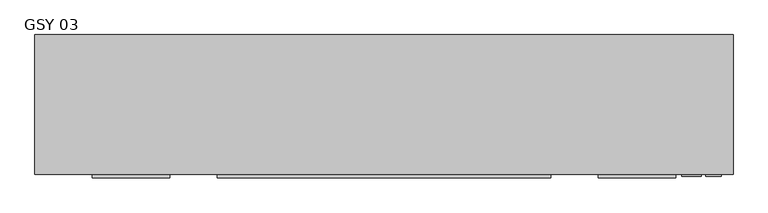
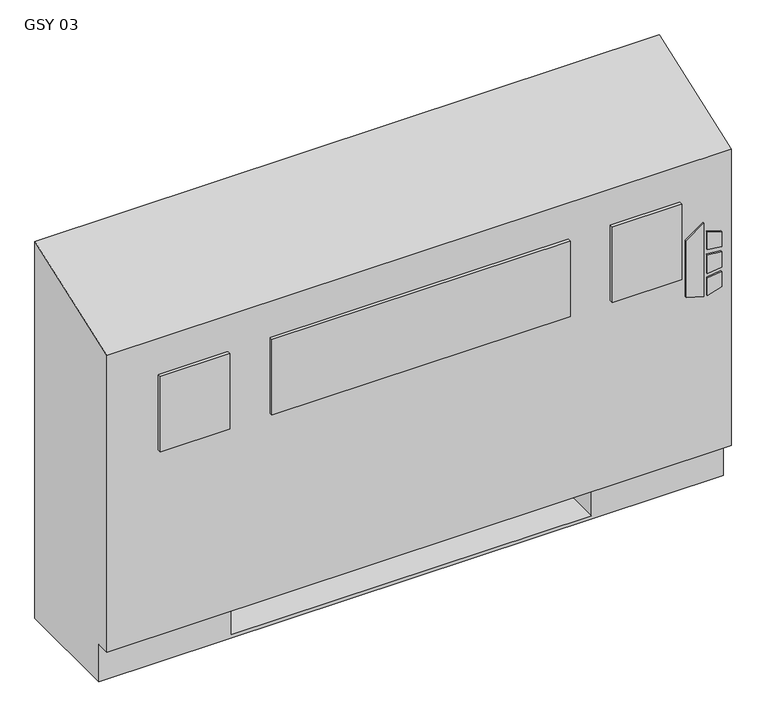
"""IFC4 building model written with IfcOpenShell, lengths in millimetres: proxy geometry, Vertical_Fan_Coil_Unit_-_GSY_-_IEC_-_2-Pipe_FS-FR_RH_2022 : GSY 03."""

from ifc_helpers import new_model, si_unit, point, frame, frame_2d, origin, place, context, project, spatial, polyline, circle_curve, trimmed, segment, composite_curve, outline, extrude, source, transform, mapped, element, save
from ifc_brep_helpers import plane_surface, revolved_surface, advanced_brep


def gsy_03_e8b588e9(model_context):
    return source(origin(), model_context, "Body", "SolidModel", [
        extrude(outline(polyline([(391.6086829, 639.8368862), (381.6606126, 672.0102728), (523.831537, 672.0102728), (500.8095309, 639.8368862), (391.6086829, 639.8368862)])), frame((0.0, 12.7, 0.0), z_axis=(0.0, 1.0, 0.0), x_axis=(0.0, 0.0, 1.0)), (0.0, 0.0, 1.0), 3.175),
        extrude(outline(polyline([(470.6079683, 678.7686058), (467.4055757, 704.85), (496.6344168, 704.85), (504.6988318, 678.7686058), (470.6079683, 678.7686058)])), frame((0.0, 12.7, 0.0), z_axis=(0.0, 1.0, 0.0), x_axis=(0.0, 0.0, 1.0)), (0.0, 0.0, 1.0), 3.175),
        extrude(outline(polyline([(418.7444414, 704.85), (415.0789404, 678.7686058), (381.6606126, 678.7686058), (390.2948498, 704.85), (418.7444414, 704.85)])), frame((0.0, 12.7, 0.0), z_axis=(0.0, 1.0, 0.0), x_axis=(0.0, 0.0, 1.0)), (0.0, 0.0, 1.0), 3.175),
        extrude(outline(polyline([(458.0596028, 704.85), (460.3414292, 678.7686058), (424.4038806, 678.7686058), (427.1451456, 704.85), (458.0596028, 704.85)])), frame((0.0, 12.7, 0.0), z_axis=(0.0, 1.0, 0.0), x_axis=(0.0, 0.0, 1.0)), (0.0, 0.0, 1.0), 3.175),
        extrude(outline(polyline([(-197.993, 9.525), (-324.993, 9.525), (-324.993, 15.875), (-197.993, 15.875), (-197.993, 9.525)])), frame((0.0, 0.0, 431.8), z_axis=(0.0, 0.0, 1.0), x_axis=(1.0, 0.0, 0.0)), (0.0, 0.0, 1.0), 146.05),
        extrude(outline(polyline([(425.45, 9.525), (-120.65, 9.525), (-120.65, 15.875), (425.45, 15.875), (425.45, 9.525)])), frame((0.0, 0.0, 431.8), z_axis=(0.0, 0.0, 1.0), x_axis=(1.0, 0.0, 0.0)), (0.0, 0.0, 1.0), 146.05),
        extrude(outline(polyline([(629.793, 9.525), (502.793, 9.525), (502.793, 15.875), (629.793, 15.875), (629.793, 9.525)])), frame((0.0, 0.0, 431.8), z_axis=(0.0, 0.0, 1.0), x_axis=(1.0, 0.0, 0.0)), (0.0, 0.0, 1.0), 146.05),
        extrude(outline(polyline([(-298.45, 81.534), (-298.45, 223.266), (-127.0, 223.266), (-127.0, 81.534), (-298.45, 81.534)])), frame((0.0, 0.0, 327.025), z_axis=(0.0, 0.0, 1.0), x_axis=(1.0, 0.0, 0.0)), (0.0, 0.0, 1.0), 260.35),
        extrude(outline(composite_curve([segment(trimmed(circle_curve(frame_2d((80.645, 397.002)), 7.9375), [point((80.645, 404.9395))], [point((80.645, 389.0645))], False, "CARTESIAN"), True, "CONTINUOUS"), segment(trimmed(circle_curve(frame_2d((80.645, 397.002)), 7.9375), [point((80.645, 389.0645))], [point((80.645, 404.9395))], False, "CARTESIAN"), True, "CONTINUOUS")], self_intersect=False)), frame((482.6, 0.0, 0.0), z_axis=(1.0, 0.0, 0.0), x_axis=(0.0, 1.0, 0.0)), (0.0, 0.0, 1.0), 50.8),
        extrude(outline(composite_curve([segment(trimmed(circle_curve(frame_2d((156.8958, 535.8892)), 7.9375), [point((156.8958, 543.8267))], [point((156.8958, 527.9517))], False, "CARTESIAN"), True, "CONTINUOUS"), segment(trimmed(circle_curve(frame_2d((156.8958, 535.8892)), 7.9375), [point((156.8958, 527.9517))], [point((156.8958, 543.8267))], False, "CARTESIAN"), True, "CONTINUOUS")], self_intersect=False)), frame((482.6, 0.0, 0.0), z_axis=(1.0, 0.0, 0.0), x_axis=(0.0, 1.0, 0.0)), (0.0, 0.0, 1.0), 50.8),
        advanced_brep(
        [(-419.1, 244.475, 0.0), (723.9, 244.475, 0.0), (723.9, 41.275, 0.0), (-419.1, 41.275, 0.0), (-419.1, 244.475, 730.25), (723.9, 244.475, 730.25), (482.6, 244.475, 73.025), (711.2, 244.475, 73.025), (711.2, 244.475, 654.05), (482.6, 244.475, 654.05), (482.6, 244.475, 414.8650565), (511.175, 244.475, 414.8650565), (511.175, 244.475, 385.2349435), (482.6, 244.475, 385.2349435), (482.6, 244.475, 287.3375), (511.175, 244.475, 287.3375), (511.175, 244.475, 258.7625), (482.6, 244.475, 258.7625), (482.6, 244.475, 141.2875), (511.175, 244.475, 141.2875), (511.175, 244.475, 112.7125), (482.6, 244.475, 112.7125), (-177.8, 244.475, 654.05), (-406.4, 244.475, 654.05), (-406.4, 244.475, 73.025), (-177.8, 244.475, 73.025), (-177.8, 244.475, 112.7125), (-206.375, 244.475, 112.7125), (-206.375, 244.475, 141.2875), (-177.8, 244.475, 141.2875), (-177.8, 244.475, 258.7625), (-206.375, 244.475, 258.7625), (-206.375, 244.475, 287.3375), (-177.8, 244.475, 287.3375), (-177.8, 244.475, 385.2349435), (-206.375, 244.475, 385.2349435), (-206.375, 244.475, 414.8650565), (-177.8, 244.475, 414.8650565), (500.8626, 244.475, 127.0), (489.7374, 244.475, 127.0), (500.8626, 244.475, 400.05), (489.7374, 244.475, 400.05), (500.8626, 244.475, 273.05), (489.7374, 244.475, 273.05), (-184.9374, 244.475, 127.0), (-196.0626, 244.475, 127.0), (-184.9374, 244.475, 273.05), (-196.0626, 244.475, 273.05), (-184.9374, 244.475, 400.05), (-196.0626, 244.475, 400.05), (-419.1, 41.275, 73.025), (-419.1, 15.875, 73.025), (-419.1, 15.875, 647.7), (723.9, 15.875, 73.025), (723.9, 15.875, 647.7), (723.9, 41.275, 73.025), (-177.8, 41.275, 73.025), (-177.8, 225.425, 73.025), (482.6, 225.425, 73.025), (482.6, 41.275, 73.025), (482.6, 41.275, 6.35), (-177.8, 41.275, 6.35), (482.6, 41.275, 654.05), (711.2, 41.275, 654.05), (711.2, 41.275, 73.025), (482.6, 41.275, 73.025), (-177.8, 41.275, 654.05), (-177.8, 41.275, 73.025), (-406.4, 41.275, 73.025), (-406.4, 41.275, 654.05), (482.6, 225.425, 73.025), (482.6, 238.125, 112.7125), (482.6, 238.125, 141.2875), (482.6, 238.125, 258.7625), (482.6, 238.125, 287.3375), (482.6, 238.125, 385.2349435), (482.6, 238.125, 414.8650565), (-177.8, 225.425, 73.025), (-177.8, 238.125, 414.8650565), (-177.8, 238.125, 385.2349435), (-177.8, 238.125, 287.3375), (-177.8, 238.125, 258.7625), (-177.8, 238.125, 141.2875), (-177.8, 238.125, 112.7125), (-177.8, 225.425, 6.35), (482.6, 225.425, 6.35), (511.175, 238.125, 112.7125), (511.175, 238.125, 141.2875), (489.7374, 238.125, 127.0), (500.8626, 238.125, 127.0), (511.175, 238.125, 258.7625), (511.175, 238.125, 287.3375), (489.7374, 238.125, 273.05), (500.8626, 238.125, 273.05), (511.175, 238.125, 385.2349435), (511.175, 238.125, 414.8650565), (489.7374, 238.125, 400.05), (500.8626, 238.125, 400.05), (-206.375, 238.125, 141.2875), (-206.375, 238.125, 112.7125), (-196.0626, 238.125, 127.0), (-184.9374, 238.125, 127.0), (-206.375, 238.125, 287.3375), (-206.375, 238.125, 258.7625), (-196.0626, 238.125, 273.05), (-184.9374, 238.125, 273.05), (-206.375, 238.125, 414.8650565), (-206.375, 238.125, 385.2349435), (-196.0626, 238.125, 400.05), (-184.9374, 238.125, 400.05)],
        [
            (0, 1),
            (1, 2),
            (2, 3),
            (3, 0),
            (0, 4),
            (4, 5),
            (5, 1),
            (6, 7),
            (7, 8),
            (8, 9),
            (9, 10),
            (10, 11),
            (11, 12),
            (12, 13),
            (13, 14),
            (14, 15),
            (15, 16),
            (16, 17),
            (17, 18),
            (18, 19),
            (19, 20),
            (20, 21),
            (21, 6),
            (22, 23),
            (23, 24),
            (24, 25),
            (25, 26),
            (26, 27),
            (27, 28),
            (28, 29),
            (29, 30),
            (30, 31),
            (31, 32),
            (32, 33),
            (33, 34),
            (34, 35),
            (35, 36),
            (36, 37),
            (37, 22),
            (38, 39, circle_curve(frame((495.3, 244.475, 127.0), z_axis=(0.0, -1.0, 0.0), x_axis=(-1.0, 0.0, 0.0)), 5.5626)),
            (39, 38, circle_curve(frame((495.3, 244.475, 127.0), z_axis=(0.0, -1.0, 0.0), x_axis=(-1.0, 0.0, 0.0)), 5.5626)),
            (40, 41, circle_curve(frame((495.3, 244.475, 400.05), z_axis=(0.0, -1.0, 0.0), x_axis=(-1.0, 0.0, 0.0)), 5.5626)),
            (41, 40, circle_curve(frame((495.3, 244.475, 400.05), z_axis=(0.0, -1.0, 0.0), x_axis=(-1.0, 0.0, 0.0)), 5.5626)),
            (42, 43, circle_curve(frame((495.3, 244.475, 273.05), z_axis=(0.0, -1.0, 0.0), x_axis=(-1.0, 0.0, 0.0)), 5.5626)),
            (43, 42, circle_curve(frame((495.3, 244.475, 273.05), z_axis=(0.0, -1.0, 0.0), x_axis=(-1.0, 0.0, 0.0)), 5.5626)),
            (44, 45, circle_curve(frame((-190.5, 244.475, 127.0), z_axis=(0.0, -1.0, 0.0), x_axis=(-1.0, 0.0, 0.0)), 5.5626)),
            (45, 44, circle_curve(frame((-190.5, 244.475, 127.0), z_axis=(0.0, -1.0, 0.0), x_axis=(-1.0, 0.0, 0.0)), 5.5626)),
            (46, 47, circle_curve(frame((-190.5, 244.475, 273.05), z_axis=(0.0, -1.0, 0.0), x_axis=(-1.0, 0.0, 0.0)), 5.5626)),
            (47, 46, circle_curve(frame((-190.5, 244.475, 273.05), z_axis=(0.0, -1.0, 0.0), x_axis=(-1.0, 0.0, 0.0)), 5.5626)),
            (48, 49, circle_curve(frame((-190.5, 244.475, 400.05), z_axis=(0.0, -1.0, 0.0), x_axis=(-1.0, 0.0, 0.0)), 5.5626)),
            (49, 48, circle_curve(frame((-190.5, 244.475, 400.05), z_axis=(0.0, -1.0, 0.0), x_axis=(-1.0, 0.0, 0.0)), 5.5626)),
            (3, 50),
            (50, 51),
            (51, 52),
            (52, 4),
            (51, 53),
            (53, 54),
            (54, 52),
            (5, 54),
            (53, 55),
            (55, 2),
            (50, 56),
            (56, 57),
            (57, 58),
            (58, 59),
            (59, 55),
            (59, 60),
            (60, 61),
            (61, 56),
            (62, 63),
            (63, 64),
            (64, 65),
            (65, 62),
            (66, 67),
            (67, 68),
            (68, 69),
            (69, 66),
            (65, 70),
            (70, 6),
            (21, 71),
            (71, 72),
            (72, 18),
            (17, 73),
            (73, 74),
            (74, 14),
            (13, 75),
            (75, 76),
            (76, 10),
            (9, 62),
            (64, 7),
            (63, 8),
            (69, 23),
            (22, 66),
            (68, 24),
            (67, 77),
            (77, 25),
            (37, 78),
            (78, 79),
            (79, 34),
            (33, 80),
            (80, 81),
            (81, 30),
            (29, 82),
            (82, 83),
            (83, 26),
            (57, 84),
            (84, 85),
            (85, 58),
            (85, 60),
            (84, 61),
            (71, 86),
            (86, 87),
            (87, 72),
            (88, 89, circle_curve(frame((495.3, 238.125, 127.0), z_axis=(0.0, 1.0, 0.0), x_axis=(-1.0, 0.0, 0.0)), 5.5626)),
            (89, 88, circle_curve(frame((495.3, 238.125, 127.0), z_axis=(0.0, 1.0, 0.0), x_axis=(-1.0, 0.0, 0.0)), 5.5626)),
            (73, 90),
            (90, 91),
            (91, 74),
            (92, 93, circle_curve(frame((495.3, 238.125, 273.05), z_axis=(0.0, 1.0, 0.0), x_axis=(-1.0, 0.0, 0.0)), 5.5626)),
            (93, 92, circle_curve(frame((495.3, 238.125, 273.05), z_axis=(0.0, 1.0, 0.0), x_axis=(-1.0, 0.0, 0.0)), 5.5626)),
            (75, 94),
            (94, 95),
            (95, 76),
            (96, 97, circle_curve(frame((495.3, 238.125, 400.05), z_axis=(0.0, 1.0, 0.0), x_axis=(-1.0, 0.0, 0.0)), 5.5626)),
            (97, 96, circle_curve(frame((495.3, 238.125, 400.05), z_axis=(0.0, 1.0, 0.0), x_axis=(-1.0, 0.0, 0.0)), 5.5626)),
            (98, 99),
            (99, 83),
            (82, 98),
            (100, 101, circle_curve(frame((-190.5, 238.125, 127.0), z_axis=(0.0, 1.0, 0.0), x_axis=(-1.0, 0.0, 0.0)), 5.5626)),
            (101, 100, circle_curve(frame((-190.5, 238.125, 127.0), z_axis=(0.0, 1.0, 0.0), x_axis=(-1.0, 0.0, 0.0)), 5.5626)),
            (102, 103),
            (103, 81),
            (80, 102),
            (104, 105, circle_curve(frame((-190.5, 238.125, 273.05), z_axis=(0.0, 1.0, 0.0), x_axis=(-1.0, 0.0, 0.0)), 5.5626)),
            (105, 104, circle_curve(frame((-190.5, 238.125, 273.05), z_axis=(0.0, 1.0, 0.0), x_axis=(-1.0, 0.0, 0.0)), 5.5626)),
            (106, 107),
            (107, 79),
            (78, 106),
            (108, 109, circle_curve(frame((-190.5, 238.125, 400.05), z_axis=(0.0, 1.0, 0.0), x_axis=(-1.0, 0.0, 0.0)), 5.5626)),
            (109, 108, circle_curve(frame((-190.5, 238.125, 400.05), z_axis=(0.0, 1.0, 0.0), x_axis=(-1.0, 0.0, 0.0)), 5.5626)),
            (87, 19),
            (86, 20),
            (91, 15),
            (90, 16),
            (95, 11),
            (94, 12),
            (28, 98),
            (99, 27),
            (32, 102),
            (103, 31),
            (36, 106),
            (107, 35),
            (88, 39),
            (38, 89),
            (96, 41),
            (40, 97),
            (92, 43),
            (42, 93),
            (100, 45),
            (44, 101),
            (104, 47),
            (46, 105),
            (108, 49),
            (48, 109),
        ],
        [
            plane_surface(frame((-419.1, 244.475, 0.0), z_axis=(0.0, 0.0, -1.0), x_axis=(1.0, 0.0, 0.0))),
            plane_surface(frame((723.9, 244.475, 730.25), z_axis=(0.0, 1.0, 0.0), x_axis=(0.0, 0.0, -1.0))),
            plane_surface(frame((-419.1, 244.475, 730.25), z_axis=(-1.0, 0.0, 0.0), x_axis=(0.0, 0.0, -1.0))),
            plane_surface(frame((-419.1, 15.875, 730.25), z_axis=(0.0, -1.0, 0.0), x_axis=(0.0, 0.0, -1.0))),
            plane_surface(frame((723.9, 15.875, 730.25), z_axis=(1.0, 0.0, 0.0), x_axis=(0.0, 0.0, -1.0))),
            plane_surface(frame((-419.1, 15.875, 73.025), z_axis=(0.0, 0.0, -1.0), x_axis=(1.0, 0.0, 0.0))),
            plane_surface(frame((-419.1, 41.275, 73.025), z_axis=(0.0, -1.0, 0.0), x_axis=(1.0, 0.0, 0.0))),
            plane_surface(frame((482.6, 41.275, 654.05), z_axis=(0.0, 1.0, 0.0), x_axis=(0.0, 0.0, -1.0))),
            plane_surface(frame((482.6, 41.275, 654.05), z_axis=(1.0, 0.0, 0.0), x_axis=(0.0, 1.0, 0.0))),
            plane_surface(frame((482.6, 41.275, 73.025), z_axis=(0.0, 0.0, 1.0), x_axis=(0.0, 1.0, 0.0))),
            plane_surface(frame((711.2, 41.275, 73.025), z_axis=(-1.0, 0.0, 0.0), x_axis=(0.0, 1.0, 0.0))),
            plane_surface(frame((711.2, 41.275, 654.05), z_axis=(0.0, 0.0, -1.0), x_axis=(0.0, 1.0, 0.0))),
            plane_surface(frame((-177.8, 41.275, 654.05), z_axis=(0.0, 0.0, -1.0), x_axis=(0.0, 1.0, 0.0))),
            plane_surface(frame((-406.4, 41.275, 654.05), z_axis=(1.0, 0.0, 0.0), x_axis=(0.0, 1.0, 0.0))),
            plane_surface(frame((-406.4, 41.275, 73.025), z_axis=(0.0, 0.0, 1.0), x_axis=(0.0, 1.0, 0.0))),
            plane_surface(frame((-177.8, 41.275, 73.025), z_axis=(-1.0, 0.0, 0.0), x_axis=(0.0, 1.0, 0.0))),
            plane_surface(frame((482.6, 225.425, 73.025), z_axis=(0.0, -1.0, 0.0), x_axis=(0.0, 0.0, -1.0))),
            plane_surface(frame((482.6, 225.425, 73.025), z_axis=(-1.0, 0.0, 0.0), x_axis=(0.0, -1.0, 0.0))),
            plane_surface(frame((482.6, 225.425, 6.35), z_axis=(0.0, 0.0, 1.0), x_axis=(0.0, -1.0, 0.0))),
            plane_surface(frame((-177.8, 225.425, 6.35), z_axis=(1.0, 0.0, 0.0), x_axis=(0.0, -1.0, 0.0))),
            plane_surface(frame((511.175, 238.125, 141.2875), z_axis=(0.0, -1.0, 0.0), x_axis=(-1.0, 0.0, 0.0))),
            plane_surface(frame((482.6, 244.475, 141.2875), z_axis=(0.0, 0.0, 1.0), x_axis=(0.0, -1.0, 0.0))),
            plane_surface(frame((511.175, 244.475, 141.2875), z_axis=(1.0, 0.0, 0.0), x_axis=(0.0, -1.0, 0.0))),
            plane_surface(frame((511.175, 244.475, 112.7125), z_axis=(0.0, 0.0, -1.0), x_axis=(0.0, -1.0, 0.0))),
            plane_surface(frame((482.6, 244.475, 287.3375), z_axis=(0.0, 0.0, 1.0), x_axis=(0.0, -1.0, 0.0))),
            plane_surface(frame((511.175, 244.475, 287.3375), z_axis=(1.0, 0.0, 0.0), x_axis=(0.0, -1.0, 0.0))),
            plane_surface(frame((511.175, 244.475, 258.7625), z_axis=(0.0, 0.0, -1.0), x_axis=(0.0, -1.0, 0.0))),
            plane_surface(frame((482.6, 244.475, 414.8650565), z_axis=(0.0, 0.0, 1.0), x_axis=(0.0, -1.0, 0.0))),
            plane_surface(frame((511.175, 244.475, 414.8650565), z_axis=(1.0, 0.0, 0.0), x_axis=(0.0, -1.0, 0.0))),
            plane_surface(frame((511.175, 244.475, 385.2349435), z_axis=(0.0, 0.0, -1.0), x_axis=(0.0, -1.0, 0.0))),
            plane_surface(frame((-206.375, 244.475, 141.2875), z_axis=(0.0, 0.0, 1.0), x_axis=(0.0, -1.0, 0.0))),
            plane_surface(frame((-177.8, 244.475, 112.7125), z_axis=(0.0, 0.0, -1.0), x_axis=(0.0, -1.0, 0.0))),
            plane_surface(frame((-206.375, 244.475, 112.7125), z_axis=(-1.0, 0.0, 0.0), x_axis=(0.0, -1.0, 0.0))),
            plane_surface(frame((-206.375, 244.475, 287.3375), z_axis=(0.0, 0.0, 1.0), x_axis=(0.0, -1.0, 0.0))),
            plane_surface(frame((-177.8, 244.475, 258.7625), z_axis=(0.0, 0.0, -1.0), x_axis=(0.0, -1.0, 0.0))),
            plane_surface(frame((-206.375, 244.475, 258.7625), z_axis=(-1.0, 0.0, 0.0), x_axis=(0.0, -1.0, 0.0))),
            plane_surface(frame((-206.375, 244.475, 414.8650565), z_axis=(0.0, 0.0, 1.0), x_axis=(0.0, -1.0, 0.0))),
            plane_surface(frame((-177.8, 244.475, 385.2349435), z_axis=(0.0, 0.0, -1.0), x_axis=(0.0, -1.0, 0.0))),
            plane_surface(frame((-206.375, 244.475, 385.2349435), z_axis=(-1.0, 0.0, 0.0), x_axis=(0.0, -1.0, 0.0))),
            revolved_surface(polyline([(489.73740000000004, 238.125, 127.0), (489.73740000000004, 244.475, 127.0)]), (495.3, 244.475, 127.0), (0.0, -1.0, 0.0)),
            revolved_surface(polyline([(489.73740000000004, 238.125, 400.05), (489.73740000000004, 244.475, 400.05)]), (495.3, 244.475, 400.05), (0.0, -1.0, 0.0)),
            revolved_surface(polyline([(489.73740000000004, 238.125, 273.05), (489.73740000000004, 244.475, 273.05)]), (495.3, 244.475, 273.05), (0.0, -1.0, 0.0)),
            revolved_surface(polyline([(-196.0626, 238.125, 127.0), (-196.0626, 244.475, 127.0)]), (-190.5, 244.475, 127.0), (0.0, -1.0, 0.0)),
            revolved_surface(polyline([(-196.0626, 238.125, 273.05), (-196.0626, 244.475, 273.05)]), (-190.5, 244.475, 273.05), (0.0, -1.0, 0.0)),
            revolved_surface(polyline([(-196.0626, 238.125, 400.05), (-196.0626, 244.475, 400.05)]), (-190.5, 244.475, 400.05), (0.0, -1.0, 0.0)),
            plane_surface(frame((-419.1, 244.475, 730.25), z_axis=(0.0, -0.33964446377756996, 0.9405538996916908), x_axis=(1.0, 0.0, 0.0))),
        ],
        [
            (0, [[1, 2, 3, 4]]),
            (1, [[-1, 5, 6, 7], [8, 9, 10, 11, 12, 13, 14, 15, 16, 17, 18, 19, 20, 21, 22, 23], [24, 25, 26, 27, 28, 29, 30, 31, 32, 33, 34, 35, 36, 37, 38, 39], [40, 41], [42, 43], [44, 45], [46, 47], [48, 49], [50, 51]]),
            (2, [[-5, -4, 52, 53, 54, 55]]),
            (3, [[56, 57, 58, -54]]),
            (4, [[-7, 59, -57, 60, 61, -2]]),
            (5, [[-53, 62, 63, 64, 65, 66, -60, -56]]),
            (6, [[-3, -61, -66, 67, 68, 69, -62, -52]]),
            (7, [[70, 71, 72, 73]]),
            (7, [[74, 75, 76, 77]]),
            (8, [[-73, 78, 79, -23, 80, 81, 82, -19, 83, 84, 85, -15, 86, 87, 88, -11, 89]]),
            (9, [[-72, 90, -8, -79, -78]]),
            (10, [[-71, 91, -9, -90]]),
            (11, [[-70, -89, -10, -91]]),
            (12, [[-77, 92, -24, 93]]),
            (13, [[-76, 94, -25, -92]]),
            (14, [[-75, 95, 96, -26, -94]]),
            (15, [[-74, -93, -39, 97, 98, 99, -35, 100, 101, 102, -31, 103, 104, 105, -27, -96, -95]]),
            (16, [[-64, 106, 107, 108]]),
            (17, [[-108, 109, -67, -65]]),
            (18, [[-107, 110, -68, -109]]),
            (19, [[-106, -63, -69, -110]]),
            (20, [[111, 112, 113, -81], [114, 115]]),
            (20, [[116, 117, 118, -84], [119, 120]]),
            (20, [[121, 122, 123, -87], [124, 125]]),
            (20, [[126, 127, -104, 128], [129, 130]]),
            (20, [[131, 132, -101, 133], [134, 135]]),
            (20, [[136, 137, -98, 138], [139, 140]]),
            (21, [[-113, 141, -20, -82]]),
            (22, [[-112, 142, -21, -141]]),
            (23, [[-111, -80, -22, -142]]),
            (24, [[-118, 143, -16, -85]]),
            (25, [[-117, 144, -17, -143]]),
            (26, [[-116, -83, -18, -144]]),
            (27, [[-123, 145, -12, -88]]),
            (28, [[-122, 146, -13, -145]]),
            (29, [[-121, -86, -14, -146]]),
            (30, [[-128, -103, -30, 147]]),
            (31, [[-127, 148, -28, -105]]),
            (32, [[-126, -147, -29, -148]]),
            (33, [[-133, -100, -34, 149]]),
            (34, [[-132, 150, -32, -102]]),
            (35, [[-131, -149, -33, -150]]),
            (36, [[-138, -97, -38, 151]]),
            (37, [[-137, 152, -36, -99]]),
            (38, [[-136, -151, -37, -152]]),
            (39, [[153, -40, 154, -114]]),
            (39, [[-153, -115, -154, -41]]),
            (40, [[155, -42, 156, -124]]),
            (40, [[-155, -125, -156, -43]]),
            (41, [[157, -44, 158, -119]]),
            (41, [[-157, -120, -158, -45]]),
            (42, [[159, -46, 160, -129]]),
            (42, [[-159, -130, -160, -47]]),
            (43, [[161, -48, 162, -134]]),
            (43, [[-161, -135, -162, -49]]),
            (44, [[163, -50, 164, -139]]),
            (44, [[-163, -140, -164, -51]]),
            (45, [[-6, -55, -58, -59]]),
        ],
    ),
    ])


if __name__ == "__main__":
    model = new_model("IFC4")
    model_context = context("Model", 3, world=origin())
    ifc_project = project(units=[si_unit("LENGTHUNIT", "METRE", prefix="MILLI")], contexts=[model_context])
    site = spatial("IfcSite", under=ifc_project)
    building = spatial("IfcBuilding", under=site)
    placement = place(None, origin())
    gsy_03_shape = gsy_03_e8b588e9(model_context)
    element("IfcBuildingElementProxy", 1, Name="Vertical_Fan_Coil_Unit_-_GSY_-_IEC_-_2-Pipe_FS-FR_RH_2022 : GSY 03", ObjectType="Vertical_Fan_Coil_Unit_-_GSY_-_IEC_-_2-Pipe_FS-FR_RH_2022 : GSY 03", at=placement, inside=building, context=model_context, shape_type="MappedRepresentation", body=[
        mapped(gsy_03_shape, transform((0.0, 0.0, 0.0), x_axis=(1.0, 0.0, 0.0), y_axis=(0.0, 1.0, 0.0), z_axis=(0.0, 0.0, 1.0))),
    ])
    save(model, "model.ifc")
